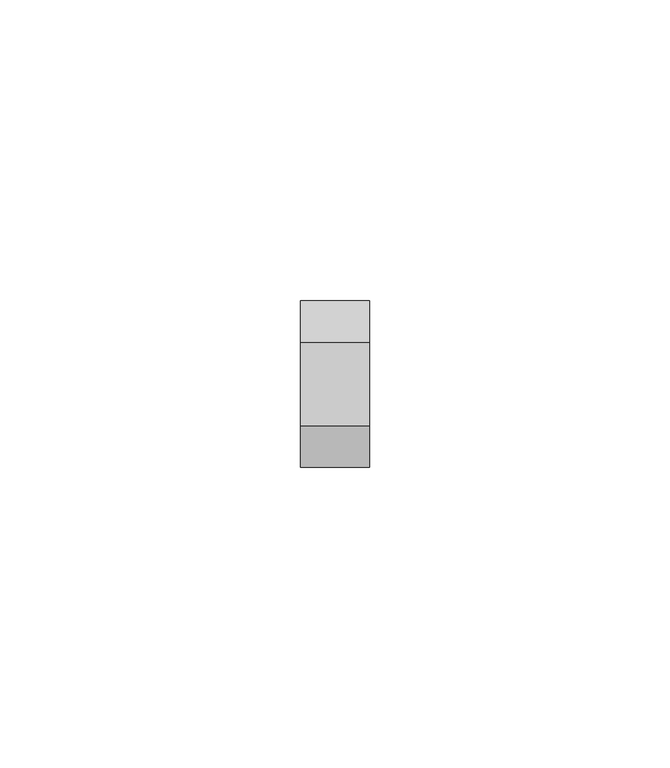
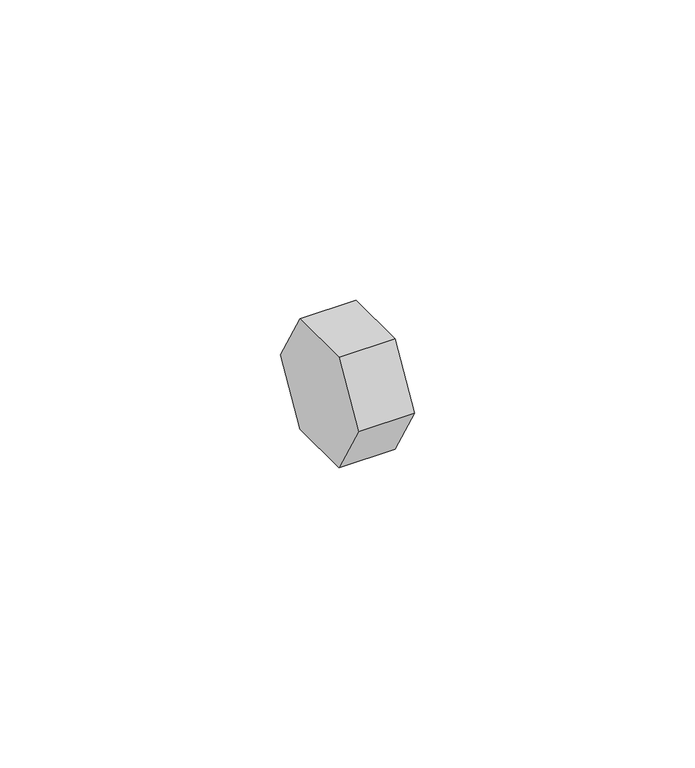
"""IFC4 building model written with IfcOpenShell, lengths in millimetres: pipe fitting geometry, Astra Gás - Tampão Fêmea para Distribuidor - TAPH : Astra Gás - Tampão Fêmea para Distribuidor - TAPH."""

from ifc_helpers import new_model, si_unit, frame, origin, place, context, project, spatial, polyline, circle_curve, source, transform, mapped, element, save
from ifc_brep_helpers import plane_surface, revolved_surface, advanced_brep


def pipe_fitting_e53a1377(model_context):
    return source(origin(), model_context, "Body", "AdvancedBrep", [
        advanced_brep(
        [(5.75, -13.8564065, 0.0), (5.75, -6.9282032, -12.0), (5.75, 6.9282032, -12.0), (5.75, 13.8564065, 0.0), (5.75, 6.9282032, 12.0), (5.75, -6.9282032, 12.0), (5.75, 10.5, 0.0), (5.75, -10.5, 0.0), (-5.75, -13.8564065, 0.0), (-5.75, -6.9282032, 12.0), (-5.75, 6.9282032, 12.0), (-5.75, 13.8564065, 0.0), (-5.75, 6.9282032, -12.0), (-5.75, -6.9282032, -12.0), (5.15, -9.9, 0.0), (5.15, 9.9, 0.0), (-4.05, 9.9, 0.0), (-4.05, -9.9, 0.0), (-4.05, 0.0, 0.0)],
        [
            (0, 1),
            (1, 2),
            (2, 3),
            (3, 4),
            (4, 5),
            (5, 0),
            (6, 7, circle_curve(frame((5.75, 0.0, 0.0), z_axis=(-1.0, 0.0, 0.0), x_axis=(0.0, 1.0, 0.0)), 10.5)),
            (7, 6, circle_curve(frame((5.75, 0.0, 0.0), z_axis=(-1.0, 0.0, 0.0), x_axis=(0.0, 1.0, 0.0)), 10.5)),
            (8, 9),
            (9, 10),
            (10, 11),
            (11, 12),
            (12, 13),
            (13, 8),
            (0, 8),
            (13, 1),
            (12, 2),
            (11, 3),
            (10, 4),
            (9, 5),
            (14, 7),
            (6, 15),
            (15, 14, circle_curve(frame((5.15, 0.0, 0.0), z_axis=(-1.0, 0.0, 0.0), x_axis=(0.0, 1.0, 0.0)), 9.9)),
            (14, 15, circle_curve(frame((5.15, 0.0, 0.0), z_axis=(-1.0, 0.0, 0.0), x_axis=(0.0, 1.0, 0.0)), 9.9)),
            (15, 16),
            (16, 17, circle_curve(frame((-4.05, 0.0, 0.0), z_axis=(-1.0, 0.0, 0.0), x_axis=(0.0, 1.0, 0.0)), 9.9)),
            (17, 14),
            (17, 16, circle_curve(frame((-4.05, 0.0, 0.0), z_axis=(-1.0, 0.0, 0.0), x_axis=(0.0, 1.0, 0.0)), 9.9)),
            (16, 18),
            (18, 17),
        ],
        [
            plane_surface(frame((5.75, -13.8564065, 0.0), z_axis=(1.0, 0.0, 0.0), x_axis=(0.0, 0.5000000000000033, -0.8660254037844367))),
            plane_surface(frame((-5.75, -13.8564065, 0.0), z_axis=(-1.0, 0.0, 0.0), x_axis=(0.0, -0.5000000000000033, 0.8660254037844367))),
            plane_surface(frame((5.75, -13.8564065, 0.0), z_axis=(0.0, -0.8660254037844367, -0.5000000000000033), x_axis=(-1.0, 0.0, 0.0))),
            plane_surface(frame((5.75, -6.9282032, -12.0), z_axis=(0.0, 0.0, -1.0), x_axis=(-1.0, 0.0, 0.0))),
            plane_surface(frame((5.75, 6.9282032, -12.0), z_axis=(0.0, 0.8660254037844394, -0.4999999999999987), x_axis=(-1.0, 0.0, 0.0))),
            plane_surface(frame((5.75, 13.8564065, 0.0), z_axis=(0.0, 0.866025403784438, 0.5000000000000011), x_axis=(-1.0, 0.0, 0.0))),
            plane_surface(frame((5.75, 6.9282032, 12.0), z_axis=(0.0, 0.0, 1.0), x_axis=(-1.0, 0.0, 0.0))),
            plane_surface(frame((5.75, -6.9282032, 12.0), z_axis=(0.0, -0.8660254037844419, 0.4999999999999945), x_axis=(-1.0, 0.0, 0.0))),
            revolved_surface(polyline([(5.15, 9.9, 0.0), (5.75, 10.5, 0.0)]), (-4.05, 0.0, 0.0), (-1.0, 0.0, 0.0)),
            revolved_surface(polyline([(-4.05, 9.9, 0.0), (5.1499999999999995, 9.9, 0.0)]), (-4.05, 0.0, 0.0), (-1.0, 0.0, 0.0)),
            plane_surface(frame((-4.05, 0.0, 0.0), z_axis=(1.0, 0.0, 0.0), x_axis=(0.0, 1.0, 0.0))),
        ],
        [
            (0, [[1, 2, 3, 4, 5, 6], [7, 8]]),
            (1, [[9, 10, 11, 12, 13, 14]]),
            (2, [[-1, 15, -14, 16]]),
            (3, [[-2, -16, -13, 17]]),
            (4, [[-3, -17, -12, 18]]),
            (5, [[-4, -18, -11, 19]]),
            (6, [[-5, -19, -10, 20]]),
            (7, [[-6, -20, -9, -15]]),
            (8, [[21, -7, 22, 23]]),
            (8, [[-21, 24, -22, -8]]),
            (9, [[-23, 25, 26, 27]]),
            (9, [[-24, -27, 28, -25]]),
            (10, [[-26, 29, 30]]),
            (10, [[-28, -30, -29]]),
        ],
    ),
    ])


if __name__ == "__main__":
    model = new_model("IFC4")
    model_context = context("Model", 3, world=origin())
    ifc_project = project(units=[si_unit("LENGTHUNIT", "METRE", prefix="MILLI")], contexts=[model_context])
    site = spatial("IfcSite", under=ifc_project)
    building = spatial("IfcBuilding", under=site)
    placement = place(None, origin())
    pipe_fitting_shape = pipe_fitting_e53a1377(model_context)
    element("IfcPipeFitting", 1, ObjectType="Astra Gás - Tampão Fêmea para Distribuidor - TAPH : Astra Gás - Tampão Fêmea para Distribuidor - TAPH", at=placement, inside=building, context=model_context, shape_type="MappedRepresentation", body=[
        mapped(pipe_fitting_shape, transform((0.0, 0.0, 0.0), x_axis=(1.0, 0.0, 0.0), y_axis=(0.0, 1.0, 0.0), z_axis=(0.0, 0.0, 1.0))),
    ])
    save(model, "model.ifc")
